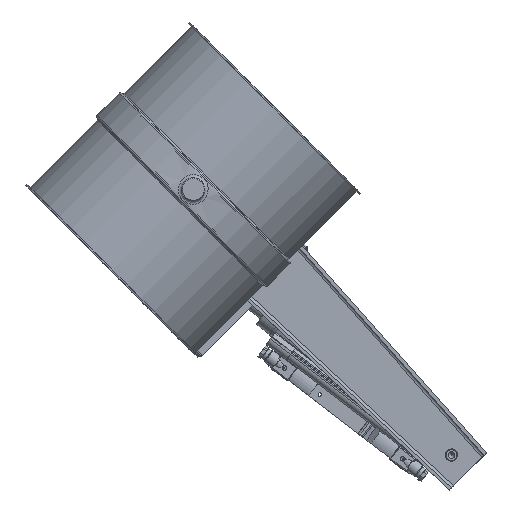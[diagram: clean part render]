
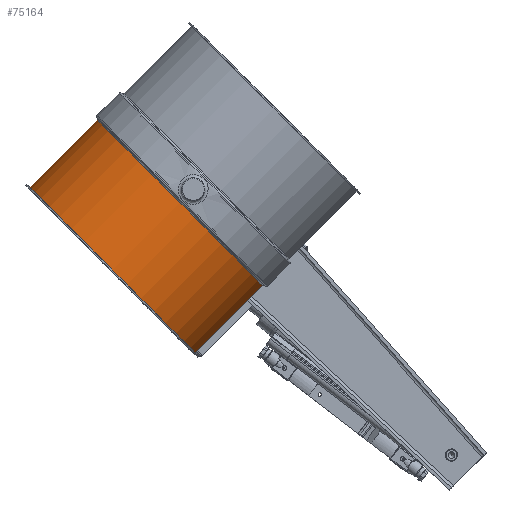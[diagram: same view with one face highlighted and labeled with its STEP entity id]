
A CAD part, top view. The second image highlights one B-rep face of the part: STEP entity #75164.
In plain terms, the highlighted cylindrical face has radius 151.5 mm (diameter 303 mm), a full revolution.
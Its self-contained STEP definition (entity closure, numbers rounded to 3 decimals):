
#74877=CARTESIAN_POINT('',(0.0,2.041,0.));
#74878=VERTEX_POINT('',#74877);
#74879=CARTESIAN_POINT('',(-151.5,2.041,0.0));
#74880=DIRECTION('',(0.0,1.0,0.0));
#74881=DIRECTION('',(1.0,0.0,0.0));
#74882=AXIS2_PLACEMENT_3D('',#74879,#74880,#74881);
#74883=CIRCLE('',#74882,151.5);
#74884=EDGE_CURVE('',#74878,#74878,#74883,.T.);
#75138=CARTESIAN_POINT('',(0.,125.541,0.0));
#75139=VERTEX_POINT('',#75138);
#75140=CARTESIAN_POINT('',(-151.5,125.541,0.0));
#75141=DIRECTION('',(0.0,-1.0,0.0));
#75142=DIRECTION('',(1.0,0.0,0.0));
#75143=AXIS2_PLACEMENT_3D('',#75140,#75141,#75142);
#75144=CIRCLE('',#75143,151.5);
#75145=EDGE_CURVE('',#75139,#75139,#75144,.T.);
#75153=CARTESIAN_POINT('',(-151.5,62.791,0.0));
#75154=DIRECTION('',(0.0,-1.0,0.0));
#75155=DIRECTION('',(1.0,0.0,0.0));
#75156=AXIS2_PLACEMENT_3D('',#75153,#75154,#75155);
#75157=CYLINDRICAL_SURFACE('',#75156,151.5);
#75158=ORIENTED_EDGE('',*,*,#74884,.T.);
#75159=EDGE_LOOP('',(#75158));
#75160=FACE_OUTER_BOUND('',#75159,.T.);
#75161=ORIENTED_EDGE('',*,*,#75145,.T.);
#75162=EDGE_LOOP('',(#75161));
#75163=FACE_BOUND('',#75162,.T.);
#75164=ADVANCED_FACE('',(#75160,#75163),#75157,.T.);
